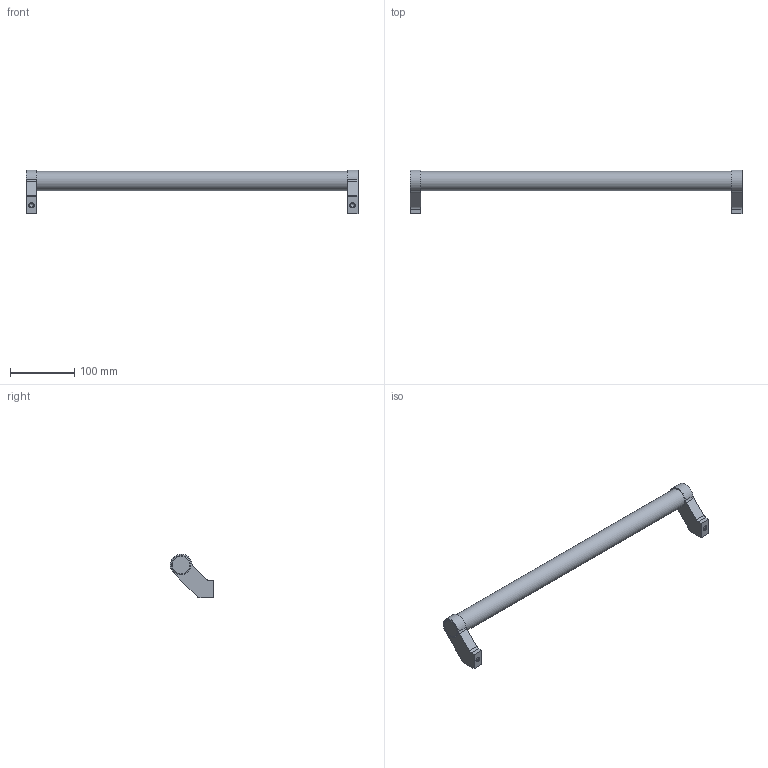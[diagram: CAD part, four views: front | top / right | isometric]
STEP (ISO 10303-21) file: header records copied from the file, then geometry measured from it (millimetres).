
FILE_DESCRIPTION( ( 'STEP AP203' ), '1' );
FILE_NAME( 'C:/Temp/Ganter_Step_05_03_2020/data/1_2/gn333/Tubular handle GN 333-30-500-A-SW.stp', '2020-03-05T10:16:23', ( 'License CC BY-ND 4.0' ), ( 'CADENAS' ), ' ', 'PARTsolutions', ' ' );
FILE_SCHEMA( ( 'CONFIG_CONTROL_DESIGN' ) );
Length unit declared in the file: millimetre
Products named in the file (1): _Tubular handle GN 333-30-500-A-SW
Bounding box: 517 x 67.96 x 67.99 mm (x, y, z)
Volume: 422977.2 mm3; surface area: 62462.8 mm2
Topology: 1 solids, 1 shells, 47 faces, 108 edges, 69 vertices
Faces by surface type: plane 26, cylinder 15, cone 4, torus 2
Full cylindrical faces by diameter (mm): 6.647 x2, 8.5 x2, 30 x3
Entity records: 1326 total; most frequent: CARTESIAN_POINT 270, DIRECTION 216, ORIENTED_EDGE 184, EDGE_CURVE 92, AXIS2_PLACEMENT_3D 84, VERTEX_POINT 66, EDGE_LOOP 64, FACE_OUTER_BOUND 54
